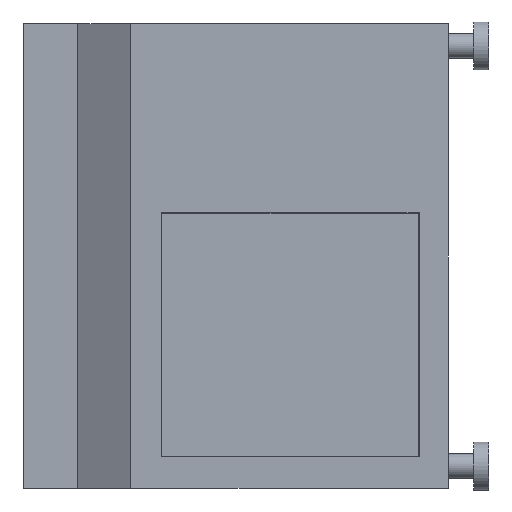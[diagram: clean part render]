
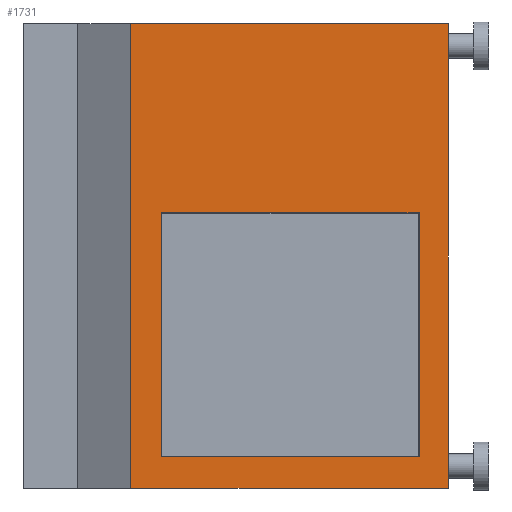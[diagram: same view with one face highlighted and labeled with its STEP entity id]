
A CAD part, left-side view. The second image highlights one B-rep face of the part: STEP entity #1731.
In plain terms, the highlighted planar face has unit normal (-1, 0, 0).
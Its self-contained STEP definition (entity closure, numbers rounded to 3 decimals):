
#108 = EDGE_CURVE ( 'NONE', #2176, #2112, #1341, .T. ) ;
#130 = EDGE_CURVE ( 'NONE', #2012, #2176, #1140, .T. ) ;
#133 = EDGE_CURVE ( 'NONE', #2121, #2113, #1143, .T. ) ;
#134 = EDGE_CURVE ( 'NONE', #2030, #2121, #1113, .T. ) ;
#135 = EDGE_CURVE ( 'NONE', #2038, #2030, #1243, .T. ) ;
#136 = EDGE_CURVE ( 'NONE', #2113, #2038, #1241, .T. ) ;
#137 = EDGE_CURVE ( 'NONE', #2021, #2112, #1238, .T. ) ;
#143 = EDGE_CURVE ( 'NONE', #2012, #2021, #1152, .T. ) ;
#231 = DIRECTION ( 'NONE',  ( 0., -1., 0. ) ) ;
#235 = DIRECTION ( 'NONE',  ( 0., 1., 0. ) ) ;
#237 = DIRECTION ( 'NONE',  ( 0., 0., -1. ) ) ;
#238 = DIRECTION ( 'NONE',  ( 0., -1., 0. ) ) ;
#239 = CARTESIAN_POINT ( 'NONE',  ( -450., 733., 475. ) ) ;
#240 = DIRECTION ( 'NONE',  ( 0., 0., 1. ) ) ;
#241 = CARTESIAN_POINT ( 'NONE',  ( -450., 143., 89. ) ) ;
#242 = CARTESIAN_POINT ( 'NONE',  ( -450., 143., -411. ) ) ;
#247 = DIRECTION ( 'NONE',  ( 0., -1., 0. ) ) ;
#248 = CARTESIAN_POINT ( 'NONE',  ( -450., 733., -475. ) ) ;
#255 = CARTESIAN_POINT ( 'NONE',  ( -450., 671., -411. ) ) ;
#258 = CARTESIAN_POINT ( 'NONE',  ( -450., 143., -411. ) ) ;
#287 = DIRECTION ( 'NONE',  ( 0., 0., 1. ) ) ;
#289 = CARTESIAN_POINT ( 'NONE',  ( -450., 733., 475. ) ) ;
#319 = CARTESIAN_POINT ( 'NONE',  ( -450., 83., -475. ) ) ;
#328 = CARTESIAN_POINT ( 'NONE',  ( -450., 83., 475. ) ) ;
#330 = CARTESIAN_POINT ( 'NONE',  ( -450., 143., 89. ) ) ;
#346 = CARTESIAN_POINT ( 'NONE',  ( -450., 143., -411. ) ) ;
#658 = FACE_BOUND ( 'NONE', #3016, .T. ) ;
#665 = FACE_OUTER_BOUND ( 'NONE', #2985, .T. ) ;
#867 = CARTESIAN_POINT ( 'NONE',  ( -450., 671., -411. ) ) ;
#872 = CARTESIAN_POINT ( 'NONE',  ( -450., 733., -475. ) ) ;
#879 = CARTESIAN_POINT ( 'NONE',  ( -450., 733., 475. ) ) ;
#956 = DIRECTION ( 'NONE',  ( 0., 0., -1. ) ) ;
#964 = DIRECTION ( 'NONE',  ( 1., 0., 0. ) ) ;
#966 = CARTESIAN_POINT ( 'NONE',  ( -450., 733., 475. ) ) ;
#967 = PLANE ( 'NONE',  #1744 ) ;
#1051 = CARTESIAN_POINT ( 'NONE',  ( -450., 671., 89. ) ) ;
#1108 = VECTOR ( 'NONE', #235, 1000. ) ;
#1113 = LINE ( 'NONE', #258, #1237 ) ;
#1140 = LINE ( 'NONE', #248, #1142 ) ;
#1142 = VECTOR ( 'NONE', #247, 1000. ) ;
#1143 = LINE ( 'NONE', #242, #1242 ) ;
#1146 = VECTOR ( 'NONE', #231, 1000. ) ;
#1152 = LINE ( 'NONE', #289, #1228 ) ;
#1225 = VECTOR ( 'NONE', #237, 1000. ) ;
#1228 = VECTOR ( 'NONE', #287, 1000. ) ;
#1237 = VECTOR ( 'NONE', #238, 1000. ) ;
#1238 = LINE ( 'NONE', #239, #1146 ) ;
#1241 = LINE ( 'NONE', #241, #1108 ) ;
#1242 = VECTOR ( 'NONE', #240, 1000. ) ;
#1243 = LINE ( 'NONE', #255, #1225 ) ;
#1341 = LINE ( 'NONE', #2618, #1354 ) ;
#1354 = VECTOR ( 'NONE', #2616, 1000. ) ;
#1731 = ADVANCED_FACE ( 'NONE', ( #658, #665 ), #967, .F. ) ;
#1744 = AXIS2_PLACEMENT_3D ( 'NONE', #966, #964, #956 ) ;
#2012 = VERTEX_POINT ( 'NONE', #872 ) ;
#2021 = VERTEX_POINT ( 'NONE', #879 ) ;
#2030 = VERTEX_POINT ( 'NONE', #867 ) ;
#2038 = VERTEX_POINT ( 'NONE', #1051 ) ;
#2112 = VERTEX_POINT ( 'NONE', #328 ) ;
#2113 = VERTEX_POINT ( 'NONE', #330 ) ;
#2121 = VERTEX_POINT ( 'NONE', #346 ) ;
#2176 = VERTEX_POINT ( 'NONE', #319 ) ;
#2616 = DIRECTION ( 'NONE',  ( 0., 0., 1. ) ) ;
#2618 = CARTESIAN_POINT ( 'NONE',  ( -450., 83., 475. ) ) ;
#2985 = EDGE_LOOP ( 'NONE', ( #3081, #3278, #3308, #3240 ) ) ;
#3016 = EDGE_LOOP ( 'NONE', ( #3057, #3227, #3318, #3276 ) ) ;
#3057 = ORIENTED_EDGE ( 'NONE', *, *, #133, .F. ) ;
#3081 = ORIENTED_EDGE ( 'NONE', *, *, #108, .T. ) ;
#3227 = ORIENTED_EDGE ( 'NONE', *, *, #134, .F. ) ;
#3240 = ORIENTED_EDGE ( 'NONE', *, *, #130, .T. ) ;
#3276 = ORIENTED_EDGE ( 'NONE', *, *, #136, .F. ) ;
#3278 = ORIENTED_EDGE ( 'NONE', *, *, #137, .F. ) ;
#3308 = ORIENTED_EDGE ( 'NONE', *, *, #143, .F. ) ;
#3318 = ORIENTED_EDGE ( 'NONE', *, *, #135, .F. ) ;
